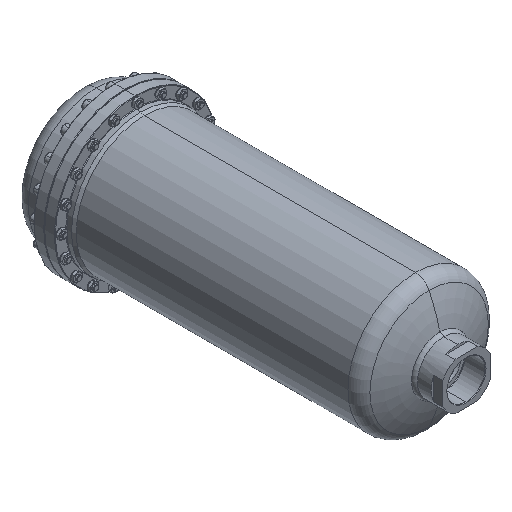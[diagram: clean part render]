
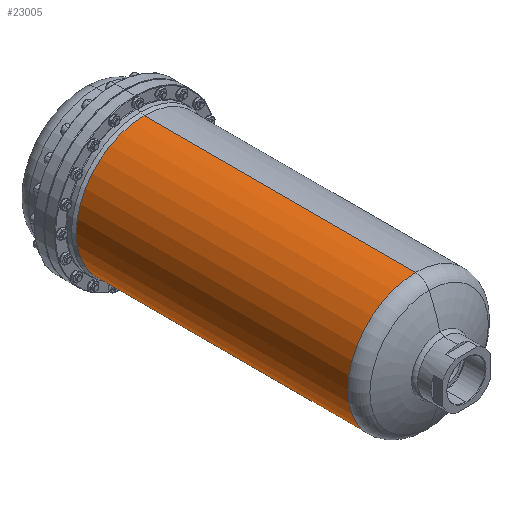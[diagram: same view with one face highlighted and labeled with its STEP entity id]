
A CAD part, isometric view. The second image highlights one B-rep face of the part: STEP entity #23005.
In plain terms, the highlighted cylindrical face has radius 128 mm (diameter 256 mm), a partial arc.
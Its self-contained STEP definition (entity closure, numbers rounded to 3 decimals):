
#362 = AXIS2_PLACEMENT_3D ( 'NONE', #20208, #20746, #20564 ) ;
#2494 = FACE_OUTER_BOUND ( 'NONE', #32793, .T. ) ;
#2837 = DIRECTION ( 'NONE',  ( 0., 1., 0. ) ) ;
#4376 = ORIENTED_EDGE ( 'NONE', *, *, #8260, .T. ) ;
#5707 = CARTESIAN_POINT ( 'NONE',  ( 0., 84.225, 128. ) ) ;
#5825 = CARTESIAN_POINT ( 'NONE',  ( 0., 95.714, 128. ) ) ;
#5912 = CARTESIAN_POINT ( 'NONE',  ( 0., 84.225, 0. ) ) ;
#7299 = DIRECTION ( 'NONE',  ( 0., 1., 0. ) ) ;
#8260 = EDGE_CURVE ( 'NONE', #27086, #30344, #29162, .T. ) ;
#8798 = VERTEX_POINT ( 'NONE', #19849 ) ;
#8959 = CARTESIAN_POINT ( 'NONE',  ( 0., 608.58, 128. ) ) ;
#9979 = EDGE_CURVE ( 'NONE', #8798, #11713, #24061, .T. ) ;
#10029 = LINE ( 'NONE', #12917, #15470 ) ;
#11153 = LINE ( 'NONE', #5707, #29612 ) ;
#11713 = VERTEX_POINT ( 'NONE', #8959 ) ;
#11831 = ORIENTED_EDGE ( 'NONE', *, *, #12819, .T. ) ;
#12819 = EDGE_CURVE ( 'NONE', #30344, #11713, #11153, .T. ) ;
#12917 = CARTESIAN_POINT ( 'NONE',  ( 0., 84.225, -128. ) ) ;
#14057 = DIRECTION ( 'NONE',  ( 0., 0., 1. ) ) ;
#14103 = AXIS2_PLACEMENT_3D ( 'NONE', #22075, #33129, #27513 ) ;
#15470 = VECTOR ( 'NONE', #7299, 1000. ) ;
#19849 = CARTESIAN_POINT ( 'NONE',  ( 0., 608.58, -128. ) ) ;
#19976 = ORIENTED_EDGE ( 'NONE', *, *, #9979, .F. ) ;
#20208 = CARTESIAN_POINT ( 'NONE',  ( 0., 608.58, 0. ) ) ;
#20564 = DIRECTION ( 'NONE',  ( 0., 0., 1. ) ) ;
#20746 = DIRECTION ( 'NONE',  ( 0., 1., 0. ) ) ;
#22075 = CARTESIAN_POINT ( 'NONE',  ( 0., 95.714, 0. ) ) ;
#22184 = DIRECTION ( 'NONE',  ( 0., 1., 0. ) ) ;
#23005 = ADVANCED_FACE ( 'NONE', ( #2494 ), #35605, .T. ) ;
#24061 = CIRCLE ( 'NONE', #362, 128. ) ;
#24686 = AXIS2_PLACEMENT_3D ( 'NONE', #5912, #2837, #14057 ) ;
#24858 = EDGE_CURVE ( 'NONE', #27086, #8798, #10029, .T. ) ;
#27086 = VERTEX_POINT ( 'NONE', #29991 ) ;
#27513 = DIRECTION ( 'NONE',  ( 0., 0., 1. ) ) ;
#29162 = CIRCLE ( 'NONE', #14103, 128. ) ;
#29612 = VECTOR ( 'NONE', #22184, 1000. ) ;
#29991 = CARTESIAN_POINT ( 'NONE',  ( 0., 95.714, -128. ) ) ;
#30344 = VERTEX_POINT ( 'NONE', #5825 ) ;
#30863 = ORIENTED_EDGE ( 'NONE', *, *, #24858, .F. ) ;
#32793 = EDGE_LOOP ( 'NONE', ( #30863, #4376, #11831, #19976 ) ) ;
#33129 = DIRECTION ( 'NONE',  ( 0., 1., 0. ) ) ;
#35605 = CYLINDRICAL_SURFACE ( 'NONE', #24686, 128. ) ;
